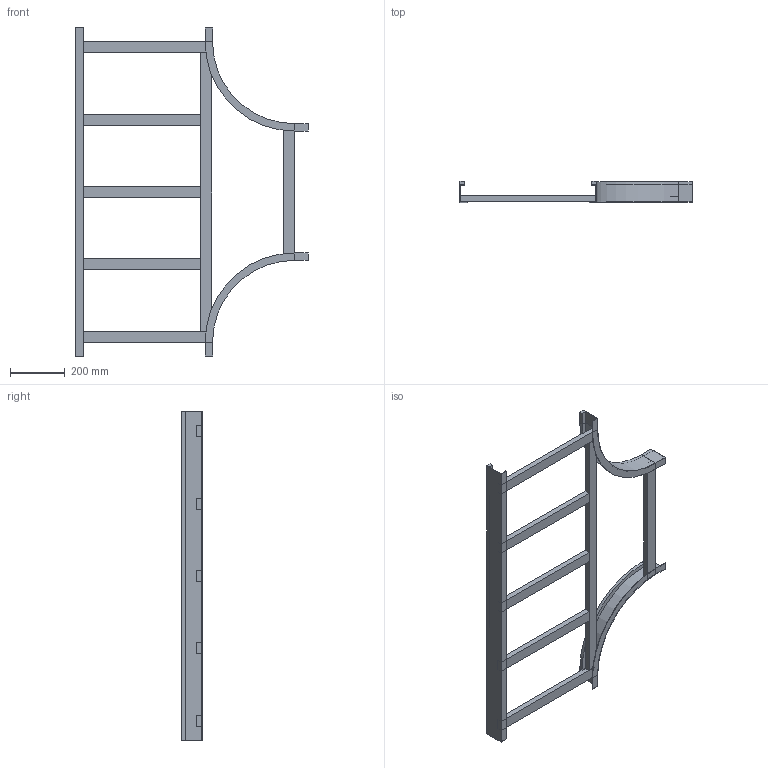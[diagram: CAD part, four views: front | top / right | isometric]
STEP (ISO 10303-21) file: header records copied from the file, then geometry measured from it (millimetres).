
FILE_DESCRIPTION (( 'STEP AP214' ), '1' );
FILE_NAME ('B2_15B3C500.step', '2025-02-21T15:53:50', ( '' ), ( '' ), 'SwSTEP 2.0', 'SolidWorks 2023', '' );
FILE_SCHEMA (( 'AUTOMOTIVE_DESIGN' ));
Length unit declared in the file: millimetre
Products named in the file (6): TRAVERSINO_500; B2_TRAVERSINO_LONG._R300+500; TRAVERSINO_INTERMEDIO_R300+500; B2_LONGH.INTERNO 90°_H75_R300; B2_LONGH.RETT_H75_R300+500; B2_15B3C500
Assembly tree (10 placements, depth 2):
  B2_15B3C500
    B2_LONGH.INTERNO 90°_H75_R300  x2
    B2_LONGH.RETT_H75_R300+500
    TRAVERSINO_500  x3
    B2_TRAVERSINO_LONG._R300+500
    TRAVERSINO_INTERMEDIO_R300+500  x3
Bounding box: 850 x 75 x 1200 mm (x, y, z)
Volume: 4064567 mm3; surface area: 1039737.3 mm2
Topology: 10 solids, 10 shells, 104 faces, 220 edges, 136 vertices
Faces by surface type: plane 96, cylinder 8
Entity records: 1647 total; most frequent: DIRECTION 258, CARTESIAN_POINT 255, ORIENTED_EDGE 232, EDGE_CURVE 116, LINE 108, VECTOR 108, AXIS2_PLACEMENT_3D 75, VERTEX_POINT 72
